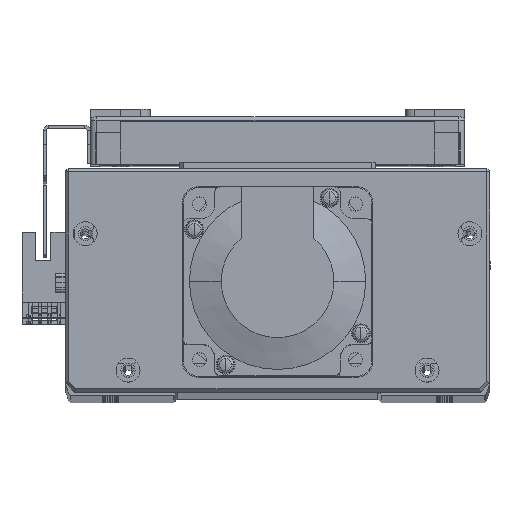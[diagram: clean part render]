
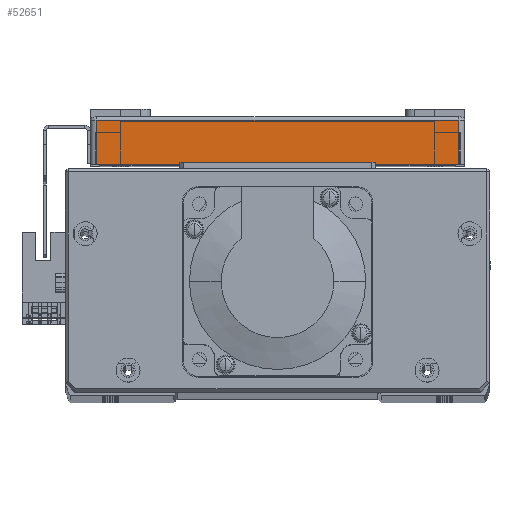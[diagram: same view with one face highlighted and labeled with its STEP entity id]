
A CAD part, top view. The second image highlights one B-rep face of the part: STEP entity #52651.
In plain terms, the highlighted planar face has unit normal (0, 0, 1) as drawn and (-1, 0, 0) by its records, which use the part's own axes.
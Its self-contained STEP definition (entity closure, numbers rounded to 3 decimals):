
#1208 = CARTESIAN_POINT ( 'NONE',  ( -95., 0., -57.5 ) ) ;
#2482 = CARTESIAN_POINT ( 'NONE',  ( -95., 0., 57.5 ) ) ;
#6675 = DIRECTION ( 'NONE',  ( 0., -1., 0. ) ) ;
#6680 = CARTESIAN_POINT ( 'NONE',  ( -95., 0., -59.5 ) ) ;
#6681 = DIRECTION ( 'NONE',  ( 0., 0., 1. ) ) ;
#6694 = CARTESIAN_POINT ( 'NONE',  ( -95., 15., -57.5 ) ) ;
#6704 = CARTESIAN_POINT ( 'NONE',  ( -95., 14., -57.5 ) ) ;
#6725 = DIRECTION ( 'NONE',  ( 0., 0., -1. ) ) ;
#18896 = CARTESIAN_POINT ( 'NONE',  ( -95., 14., 57.5 ) ) ;
#18907 = CARTESIAN_POINT ( 'NONE',  ( -95., 14., -57.5 ) ) ;
#30295 = EDGE_LOOP ( 'NONE', ( #48785, #48793, #48712, #48716 ) ) ;
#30600 = PLANE ( 'NONE',  #42800 ) ;
#30604 = CARTESIAN_POINT ( 'NONE',  ( -95., 15., -59.5 ) ) ;
#30625 = DIRECTION ( 'NONE',  ( 1., 0., 0. ) ) ;
#30741 = DIRECTION ( 'NONE',  ( 0., 0., -1. ) ) ;
#33720 = VERTEX_POINT ( 'NONE', #18896 ) ;
#33754 = VERTEX_POINT ( 'NONE', #18907 ) ;
#39803 = FACE_OUTER_BOUND ( 'NONE', #30295, .T. ) ;
#42800 = AXIS2_PLACEMENT_3D ( 'NONE', #30604, #30625, #30741 ) ;
#45206 = DIRECTION ( 'NONE',  ( 0., 1., 0. ) ) ;
#45214 = CARTESIAN_POINT ( 'NONE',  ( -95., 15., 57.5 ) ) ;
#46627 = VERTEX_POINT ( 'NONE', #2482 ) ;
#46657 = VERTEX_POINT ( 'NONE', #1208 ) ;
#48712 = ORIENTED_EDGE ( 'NONE', *, *, #51791, .T. ) ;
#48716 = ORIENTED_EDGE ( 'NONE', *, *, #51811, .T. ) ;
#48785 = ORIENTED_EDGE ( 'NONE', *, *, #51765, .T. ) ;
#48793 = ORIENTED_EDGE ( 'NONE', *, *, #51820, .T. ) ;
#50612 = VECTOR ( 'NONE', #45206, 1000. ) ;
#50643 = LINE ( 'NONE', #45214, #50612 ) ;
#50653 = LINE ( 'NONE', #6694, #50711 ) ;
#50711 = VECTOR ( 'NONE', #6675, 1000. ) ;
#50727 = VECTOR ( 'NONE', #6725, 1000. ) ;
#50752 = LINE ( 'NONE', #6704, #50727 ) ;
#50753 = VECTOR ( 'NONE', #6681, 1000. ) ;
#50755 = LINE ( 'NONE', #6680, #50753 ) ;
#51765 = EDGE_CURVE ( 'NONE', #46627, #33720, #50643, .T. ) ;
#51791 = EDGE_CURVE ( 'NONE', #33754, #46657, #50653, .T. ) ;
#51811 = EDGE_CURVE ( 'NONE', #46657, #46627, #50755, .T. ) ;
#51820 = EDGE_CURVE ( 'NONE', #33720, #33754, #50752, .T. ) ;
#52651 = ADVANCED_FACE ( 'NONE', ( #39803 ), #30600, .F. ) ;
